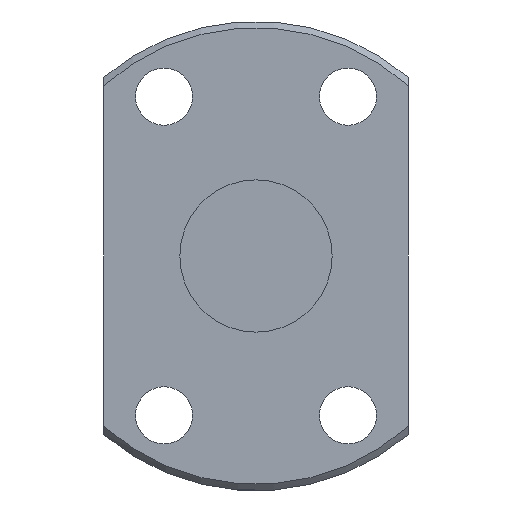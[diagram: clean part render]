
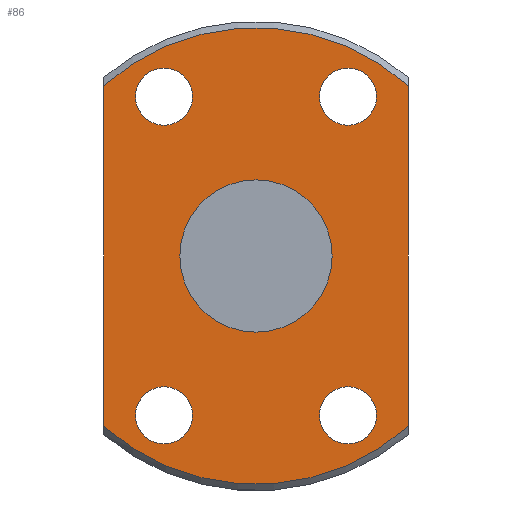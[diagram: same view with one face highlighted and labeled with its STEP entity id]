
A CAD part, front view. The second image highlights one B-rep face of the part: STEP entity #86.
In plain terms, the highlighted planar face has unit normal (0, -1, 0).
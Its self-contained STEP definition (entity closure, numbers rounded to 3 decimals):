
#86=ADVANCED_FACE('',(#132,#133,#134,#135,#136),#104,.F.);
#104=PLANE('',#369);
#116=LINE('',#528,#124);
#117=LINE('',#533,#125);
#124=VECTOR('',#434,1.);
#125=VECTOR('',#437,1.);
#132=FACE_BOUND('',#159,.T.);
#133=FACE_BOUND('',#160,.T.);
#134=FACE_BOUND('',#161,.T.);
#135=FACE_BOUND('',#162,.T.);
#136=FACE_BOUND('',#163,.T.);
#159=EDGE_LOOP('',(#204));
#160=EDGE_LOOP('',(#205));
#161=EDGE_LOOP('',(#206));
#162=EDGE_LOOP('',(#207));
#163=EDGE_LOOP('',(#208,#209,#210,#211));
#204=ORIENTED_EDGE('',*,*,#307,.T.);
#205=ORIENTED_EDGE('',*,*,#308,.T.);
#206=ORIENTED_EDGE('',*,*,#309,.T.);
#207=ORIENTED_EDGE('',*,*,#310,.T.);
#208=ORIENTED_EDGE('',*,*,#311,.F.);
#209=ORIENTED_EDGE('',*,*,#312,.T.);
#210=ORIENTED_EDGE('',*,*,#313,.T.);
#211=ORIENTED_EDGE('',*,*,#314,.T.);
#278=VERTEX_POINT('',#521);
#279=VERTEX_POINT('',#523);
#280=VERTEX_POINT('',#525);
#281=VERTEX_POINT('',#527);
#282=VERTEX_POINT('',#529);
#283=VERTEX_POINT('',#530);
#284=VERTEX_POINT('',#532);
#285=VERTEX_POINT('',#534);
#307=EDGE_CURVE('',#278,#278,#338,.T.);
#308=EDGE_CURVE('',#279,#279,#339,.T.);
#309=EDGE_CURVE('',#280,#280,#340,.T.);
#310=EDGE_CURVE('',#281,#281,#341,.T.);
#311=EDGE_CURVE('',#282,#283,#116,.T.);
#312=EDGE_CURVE('',#282,#284,#342,.T.);
#313=EDGE_CURVE('',#284,#285,#117,.T.);
#314=EDGE_CURVE('',#285,#283,#343,.T.);
#338=CIRCLE('',#363,2.25);
#339=CIRCLE('',#364,2.25);
#340=CIRCLE('',#365,2.25);
#341=CIRCLE('',#366,2.25);
#342=CIRCLE('',#367,18.);
#343=CIRCLE('',#368,18.);
#363=AXIS2_PLACEMENT_3D('',#520,#426,#427);
#364=AXIS2_PLACEMENT_3D('',#522,#428,#429);
#365=AXIS2_PLACEMENT_3D('',#524,#430,#431);
#366=AXIS2_PLACEMENT_3D('',#526,#432,#433);
#367=AXIS2_PLACEMENT_3D('',#531,#435,#436);
#368=AXIS2_PLACEMENT_3D('',#535,#438,#439);
#369=AXIS2_PLACEMENT_3D('',#536,#440,#441);
#426=DIRECTION('',(0.,1.,0.));
#427=DIRECTION('',(0.,0.,1.));
#428=DIRECTION('',(0.,1.,0.));
#429=DIRECTION('',(0.,0.,1.));
#430=DIRECTION('',(0.,1.,0.));
#431=DIRECTION('',(0.,0.,1.));
#432=DIRECTION('',(0.,1.,0.));
#433=DIRECTION('',(0.,0.,1.));
#434=DIRECTION('',(0.,0.,1.));
#435=DIRECTION('',(0.,-1.,0.));
#436=DIRECTION('',(0.,0.,1.));
#437=DIRECTION('',(0.,0.,1.));
#438=DIRECTION('',(0.,-1.,0.));
#439=DIRECTION('',(0.,0.,1.));
#440=DIRECTION('',(0.,1.,0.));
#441=DIRECTION('',(0.,0.,1.));
#520=CARTESIAN_POINT('',(-7.25,-39.,12.557));
#521=CARTESIAN_POINT('',(-7.25,-39.,14.807));
#522=CARTESIAN_POINT('',(7.25,-39.,-12.557));
#523=CARTESIAN_POINT('',(7.25,-39.,-10.307));
#524=CARTESIAN_POINT('',(7.25,-39.,12.557));
#525=CARTESIAN_POINT('',(7.25,-39.,14.807));
#526=CARTESIAN_POINT('',(-7.25,-39.,-12.557));
#527=CARTESIAN_POINT('',(-7.25,-39.,-10.307));
#528=CARTESIAN_POINT('',(-12.,-39.,18.5));
#529=CARTESIAN_POINT('',(-12.,-39.,-13.416));
#530=CARTESIAN_POINT('',(-12.,-39.,13.416));
#531=CARTESIAN_POINT('',(0.,-39.,0.));
#532=CARTESIAN_POINT('',(12.,-39.,-13.416));
#533=CARTESIAN_POINT('',(12.,-39.,18.5));
#534=CARTESIAN_POINT('',(12.,-39.,13.416));
#535=CARTESIAN_POINT('',(0.,-39.,0.));
#536=CARTESIAN_POINT('',(0.,-39.,18.5));
